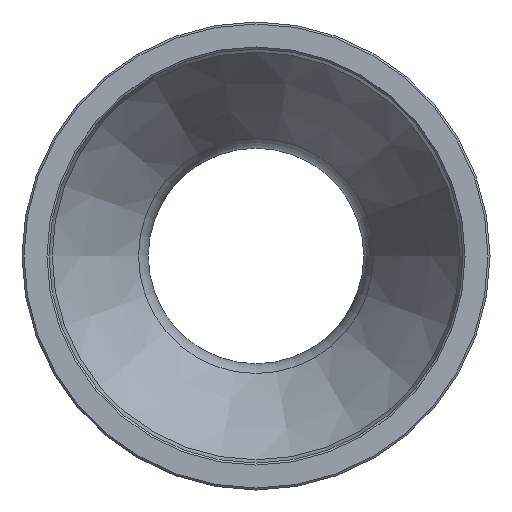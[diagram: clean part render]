
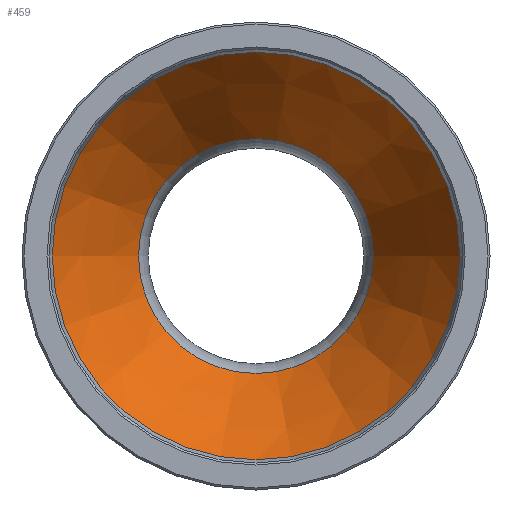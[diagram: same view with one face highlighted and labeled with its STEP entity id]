
A CAD part, left-side view. The second image highlights one B-rep face of the part: STEP entity #459.
In plain terms, the highlighted conical face has half-angle 30.901 degrees and reference radius 16.082 mm.
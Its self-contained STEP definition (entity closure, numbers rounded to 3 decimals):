
#425=CARTESIAN_POINT('',(-6.086,11.763,0.0));
#426=VERTEX_POINT('',#425);
#427=CARTESIAN_POINT('',(-6.086,0.0,0.0));
#428=DIRECTION('',(1.0,0.0,0.0));
#429=DIRECTION('',(0.0,1.0,0.0));
#430=AXIS2_PLACEMENT_3D('',#427,#428,#429);
#431=CIRCLE('',#430,11.763);
#432=EDGE_CURVE('',#426,#426,#431,.T.);
#440=CARTESIAN_POINT('',(-13.302,0.0,0.0));
#441=DIRECTION('',(-1.0,0.0,0.0));
#442=DIRECTION('',(0.0,1.0,0.0));
#443=AXIS2_PLACEMENT_3D('',#440,#441,#442);
#444=CONICAL_SURFACE('',#443,16.082,30.901);
#445=CARTESIAN_POINT('',(-20.519,20.401,0.0));
#446=VERTEX_POINT('',#445);
#447=CARTESIAN_POINT('',(-20.519,0.0,0.0));
#448=DIRECTION('',(1.0,0.0,0.0));
#449=DIRECTION('',(0.0,1.0,0.0));
#450=AXIS2_PLACEMENT_3D('',#447,#448,#449);
#451=CIRCLE('',#450,20.401);
#452=EDGE_CURVE('',#446,#446,#451,.T.);
#453=ORIENTED_EDGE('',*,*,#452,.F.);
#454=EDGE_LOOP('',(#453));
#455=FACE_OUTER_BOUND('',#454,.T.);
#456=ORIENTED_EDGE('',*,*,#432,.T.);
#457=EDGE_LOOP('',(#456));
#458=FACE_BOUND('',#457,.T.);
#459=ADVANCED_FACE('',(#455,#458),#444,.F.);
